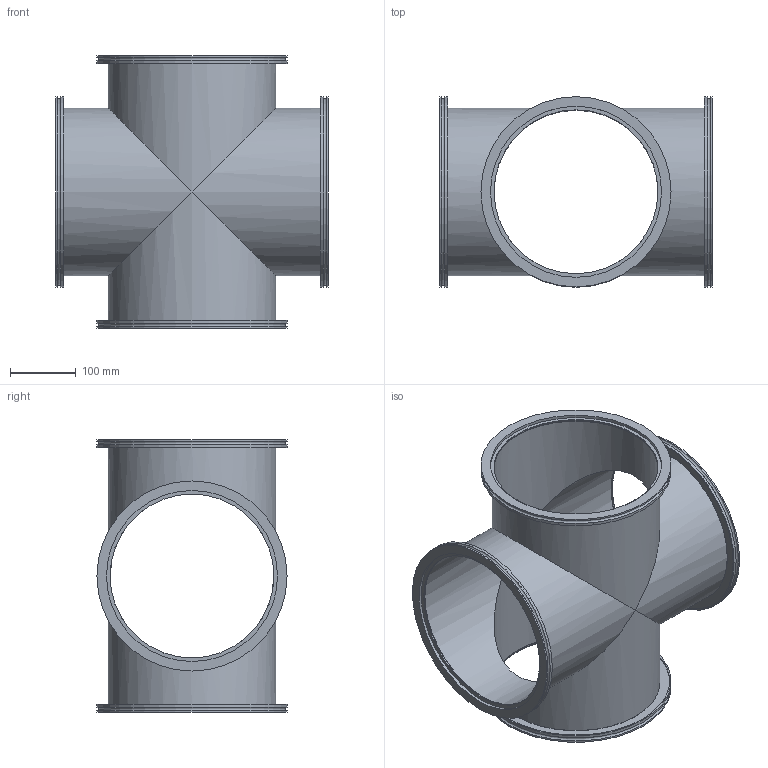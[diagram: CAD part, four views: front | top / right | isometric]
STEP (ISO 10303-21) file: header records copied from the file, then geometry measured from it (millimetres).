
FILE_DESCRIPTION((''),'2;1');
FILE_NAME('W:\Bereinigung_3D-Modelle\212-125\212-125.stp','2005-09-06T13:24:25',('KAA'),(''),'Autodesk Inventor 10','Autodesk Inventor 10','');
FILE_SCHEMA(('CONFIG_CONTROL_DESIGN'));
Length unit declared in the file: millimetre
Products named in the file (1): 212-125
Bounding box: 416 x 290 x 416 mm (x, y, z)
Volume: 1690104.3 mm3; surface area: 992800.7 mm2
Topology: 1 solids, 1 shells, 72 faces, 132 edges, 80 vertices
Faces by surface type: cylinder 32, plane 24, cone 8, torus 4, bspline 4
Full cylindrical faces by diameter (mm): 250 x8, 256 x4, 256.8 x4, 261 x4, 286 x4, 290 x8
Entity records: 1807 total; most frequent: CARTESIAN_POINT 469, DIRECTION 290, ORIENTED_EDGE 152, AXIS2_PLACEMENT_3D 145, EDGE_LOOP 144, EDGE_CURVE 76, VERTEX_POINT 72, FACE_OUTER_BOUND 72
